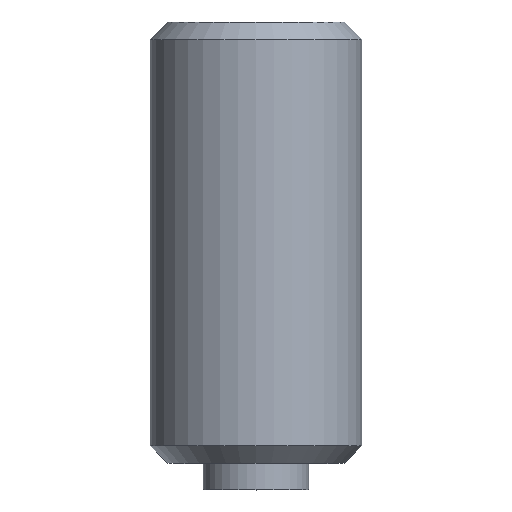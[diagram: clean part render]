
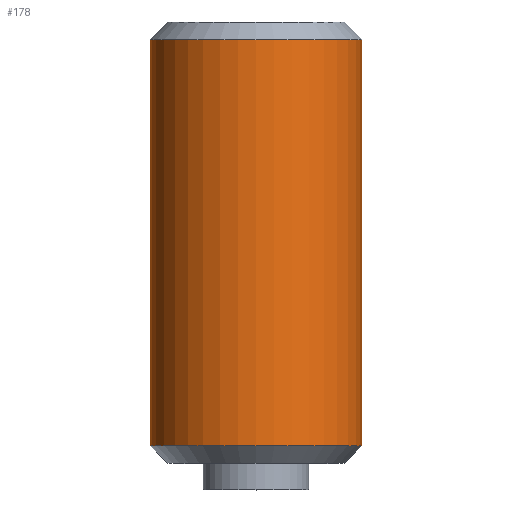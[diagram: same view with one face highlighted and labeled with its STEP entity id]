
A CAD part, top view. The second image highlights one B-rep face of the part: STEP entity #178.
In plain terms, the highlighted cylindrical face has radius 6 mm (diameter 12 mm), a full revolution.
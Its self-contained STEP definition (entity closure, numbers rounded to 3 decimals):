
#178 = ADVANCED_FACE( '', ( #213, #214 ), #215, .T. );
#213 = FACE_OUTER_BOUND( '', #259, .T. );
#214 = FACE_OUTER_BOUND( '', #260, .T. );
#215 = CYLINDRICAL_SURFACE( '', #261, 6. );
#259 = EDGE_LOOP( '', ( #333 ) );
#260 = EDGE_LOOP( '', ( #334 ) );
#261 = AXIS2_PLACEMENT_3D( '', #335, #336, #337 );
#333 = ORIENTED_EDGE( '', *, *, #406, .F. );
#334 = ORIENTED_EDGE( '', *, *, #389, .T. );
#335 = CARTESIAN_POINT( '', ( 0., 0., 0. ) );
#336 = DIRECTION( '', ( 0., 1., 0. ) );
#337 = DIRECTION( '', ( 0., 0., -1. ) );
#389 = EDGE_CURVE( '', #417, #417, #418, .T. );
#406 = EDGE_CURVE( '', #449, #449, #450, .T. );
#417 = VERTEX_POINT( '', #465 );
#418 = CIRCLE( '', #466, 6. );
#449 = VERTEX_POINT( '', #508 );
#450 = CIRCLE( '', #509, 6. );
#465 = CARTESIAN_POINT( '', ( 0., 24., -6. ) );
#466 = AXIS2_PLACEMENT_3D( '', #531, #532, #533 );
#508 = CARTESIAN_POINT( '', ( 0., 1., -6. ) );
#509 = AXIS2_PLACEMENT_3D( '', #560, #561, #562 );
#531 = CARTESIAN_POINT( '', ( 0., 24., 0. ) );
#532 = DIRECTION( '', ( 0., -1., 0. ) );
#533 = DIRECTION( '', ( 0., 0., -1. ) );
#560 = CARTESIAN_POINT( '', ( 0., 1., 0. ) );
#561 = DIRECTION( '', ( 0., -1., 0. ) );
#562 = DIRECTION( '', ( 0., 0., -1. ) );
